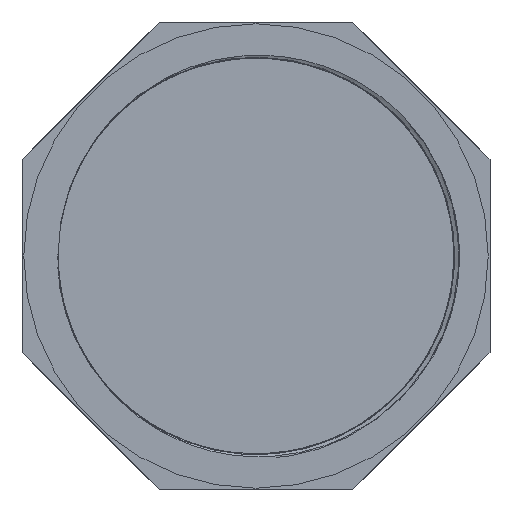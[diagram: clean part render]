
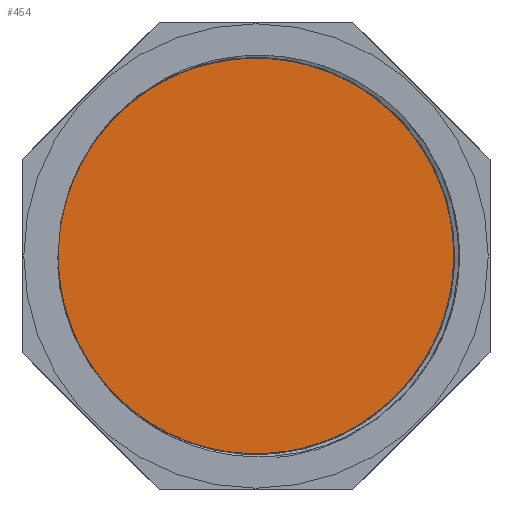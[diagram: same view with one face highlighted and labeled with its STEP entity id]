
A CAD part, front view. The second image highlights one B-rep face of the part: STEP entity #454.
In plain terms, the highlighted planar face has unit normal (0, -1, 0).
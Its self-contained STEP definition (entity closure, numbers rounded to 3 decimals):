
#26=PLANE('',#485);
#123=FACE_OUTER_BOUND('',#154,.T.);
#154=EDGE_LOOP('',(#344));
#184=CIRCLE('',#484,55.036);
#220=VERTEX_POINT('',#6903);
#267=EDGE_CURVE('',#220,#220,#184,.T.);
#344=ORIENTED_EDGE('',*,*,#267,.F.);
#454=ADVANCED_FACE('',(#123),#26,.F.);
#484=AXIS2_PLACEMENT_3D('',#6904,#535,#536);
#485=AXIS2_PLACEMENT_3D('',#6905,#537,#538);
#535=DIRECTION('center_axis',(0.,1.,0.));
#536=DIRECTION('ref_axis',(-1.,0.,0.));
#537=DIRECTION('center_axis',(0.,1.,0.));
#538=DIRECTION('ref_axis',(0.,0.,1.));
#6903=CARTESIAN_POINT('',(55.036,50.,0.));
#6904=CARTESIAN_POINT('Origin',(0.,50.,0.));
#6905=CARTESIAN_POINT('Origin',(0.,50.,0.));
